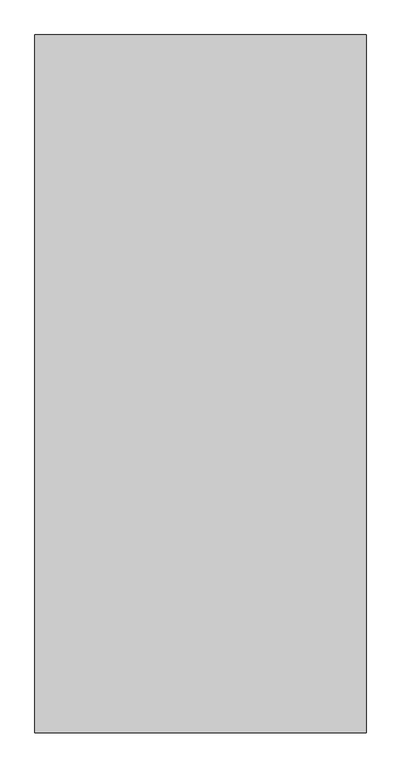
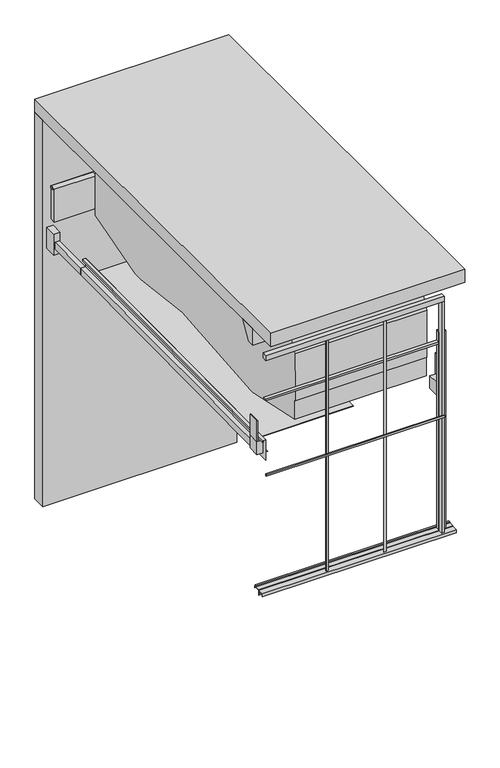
"""IFC4 building model written with IfcOpenShell, lengths in millimetres: proxy geometry, TrendVario_6300 : TrendVario_6300."""

from ifc_helpers import new_model, si_unit, frame, origin, origin_with_axes, place, context, project, spatial, polyline, circle_curve, outline, extrude, faceted_brep, source, transform, mapped, element, save
from ifc_brep_helpers import plane_surface, cylinder_surface, advanced_brep


def generic_models_e46402e7(model_context):
    return source(origin(), model_context, "Body", "SolidModel", [
        advanced_brep(
        [(650.0080034, 319.1090444, 2530.0), (650.0080034, 312.8152781, 3251.1941877), (650.0080034, 610.2970904, 3807.9723191), (650.0080034, 817.391149, 3809.7796016), (650.0080034, 818.414475, 3811.6948969), (650.0080034, 3720.0713452, 3837.0172728), (650.0080034, 5320.0488456, 3400.9650555), (650.0080034, 5320.0564576, 2327.578956), (650.0080034, 4315.7898833, 2049.0711861), (650.0080034, 4227.211946, 2040.6781608), (650.0080034, 3146.7425411, 2165.2190354), (650.0080034, 1426.7734714, 2016.5954437), (650.0080034, 1343.0441931, 2020.9835093), (650.0080034, 327.0638179, 2246.2209358), (650.0080034, 324.5873155, 2530.0), (2550.0080034, 610.2970903, 3807.9723191), (2550.0080034, 312.8152781, 3251.1941877), (2550.0080034, 319.1090444, 2530.0), (2550.0080034, 324.5873155, 2530.0), (2550.0080034, 327.0638178, 2246.2209358), (2550.0080034, 1343.0441931, 2020.9835093), (2550.0080034, 1426.7734714, 2016.5954437), (2550.0080034, 3146.7425411, 2165.2190354), (2550.0080034, 4227.211946, 2040.6781608), (2550.0080034, 4315.7898833, 2049.0711861), (2550.0080034, 5320.0564576, 2327.578956), (2550.0080034, 5320.0488456, 3400.9650555), (2550.0080034, 3720.0713452, 3837.0172728), (2550.0080034, 818.414475, 3811.6948969), (2550.0080034, 817.391149, 3809.7796016)],
        [
            (0, 1),
            (1, 2),
            (2, 3),
            (3, 4),
            (4, 5),
            (5, 6),
            (6, 7),
            (7, 8),
            (8, 9, circle_curve(frame((650.0080034, 4247.9113358, 2293.8333213), z_axis=(-1.0, 6.846874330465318e-12, 0.0), x_axis=(6.846340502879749e-12, 0.9999619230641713, 0.008726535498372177)), 254.0)),
            (9, 10),
            (10, 11),
            (11, 12, circle_curve(frame((650.0080034, 1398.0198551, 2268.9626951), z_axis=(-1.0, 6.846874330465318e-12, 0.0), x_axis=(6.846340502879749e-12, 0.9999619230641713, 0.008726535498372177)), 254.0)),
            (12, 13),
            (13, 14),
            (14, 0),
            (15, 16),
            (16, 17),
            (17, 18),
            (18, 19),
            (19, 20),
            (20, 21, circle_curve(frame((2550.0080034, 1398.0198551, 2268.9626951), z_axis=(1.0, -6.846874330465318e-12, 0.0), x_axis=(6.846340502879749e-12, 0.9999619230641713, 0.008726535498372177)), 254.0)),
            (21, 22),
            (22, 23),
            (23, 24, circle_curve(frame((2550.0080034, 4247.9113358, 2293.8333213), z_axis=(1.0, -6.846874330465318e-12, 0.0), x_axis=(6.846340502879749e-12, 0.9999619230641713, 0.008726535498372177)), 254.0)),
            (24, 25),
            (25, 26),
            (26, 27),
            (27, 28),
            (28, 29),
            (29, 15),
            (2, 15),
            (29, 3),
            (1, 16),
            (17, 0),
            (14, 18),
            (4, 28),
            (27, 5),
            (26, 6),
            (25, 7),
            (24, 8),
            (23, 9),
            (22, 10),
            (21, 11),
            (20, 12),
            (19, 13),
        ],
        [
            plane_surface(frame((650.0080034, 428.8717402, 3900.0), z_axis=(-1.0, 6.846035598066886e-12, 0.0), x_axis=(0.0, 0.0, 1.0))),
            plane_surface(frame((2550.0080034, 428.8717402, 3900.0), z_axis=(1.0, -6.846035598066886e-12, 0.0), x_axis=(0.0, 0.0, 1.0))),
            plane_surface(frame((650.0080034, 610.2970904, 3807.9723191), z_axis=(0.0, -0.008726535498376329, 0.9999619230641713), x_axis=(1.0, -6.845999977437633e-12, 0.0))),
            plane_surface(frame((650.0080034, 312.8152781, 3251.1941877), z_axis=(-6.038215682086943e-12, -0.8820017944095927, 0.4712460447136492), x_axis=(1.0, -6.846035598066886e-12, 0.0))),
            plane_surface(frame((650.0080034, 4789.9238543, 2530.0), z_axis=(0.0, 0.0, -1.0), x_axis=(1.0, -6.845999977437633e-12, 0.0))),
            plane_surface(frame((650.0080034, 319.1090444, 2530.0), z_axis=(-6.845774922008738e-12, -0.9999619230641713, -0.008726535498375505), x_axis=(1.0, -6.846035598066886e-12, 0.0))),
            plane_surface(frame((650.0080034, 818.414475, 3811.6948969), z_axis=(0.0, -0.008726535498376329, 0.9999619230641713), x_axis=(1.0, -6.846142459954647e-12, 0.0))),
            plane_surface(frame((650.0080034, 3720.0713452, 3837.0172728), z_axis=(1.8001286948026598e-12, 0.2629460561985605, 0.9648105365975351), x_axis=(1.0, -6.845999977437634e-12, 0.0))),
            plane_surface(frame((650.0080034, 520.9024424, 3254.860204), z_axis=(-6.038309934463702e-12, -0.8820017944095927, 0.4712460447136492), x_axis=(1.0, -6.846142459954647e-12, 0.0))),
            plane_surface(frame((650.0080034, 5320.0488456, 3400.9650555), z_axis=(6.845999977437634e-12, 1.0, 0.0), x_axis=(1.0, -6.845999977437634e-12, 0.0))),
            plane_surface(frame((2550.0080034, 4315.7898833, 2049.0711861), z_axis=(1.7715731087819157e-12, 0.26723837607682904, -0.963630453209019), x_axis=(-1.0, 6.8459999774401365e-12, 0.0))),
            cylinder_surface(frame((2550.0080034, 4247.9113358, 2293.8333213), z_axis=(1.0, -6.846874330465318e-12, 0.0), x_axis=(6.846340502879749e-12, 0.9999619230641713, 0.008726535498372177)), 254.0),
            plane_surface(frame((2550.0080034, 3146.7425411, 2165.2190354), z_axis=(0.0, -0.11450735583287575, -0.9934224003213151), x_axis=(-1.0, 6.8459999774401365e-12, 0.0))),
            plane_surface(frame((2550.0080034, 1426.7734714, 2016.5954437), z_axis=(0.0, 0.08608980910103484, -0.9962873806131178), x_axis=(-1.0, 6.8459999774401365e-12, 0.0))),
            cylinder_surface(frame((2550.0080034, 1398.0198551, 2268.9626951), z_axis=(1.0, -6.846874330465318e-12, 0.0), x_axis=(6.846340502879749e-12, 0.9999619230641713, 0.008726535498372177)), 254.0),
            plane_surface(frame((2550.0080034, 327.0638178, 2246.2209358), z_axis=(-1.539891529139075e-12, -0.21643961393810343, -0.9762960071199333), x_axis=(-1.0, 6.845999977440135e-12, 0.0))),
            plane_surface(frame((2550.0080034, 320.9123456, 2951.1098351), z_axis=(-6.846259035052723e-12, -0.9999619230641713, -0.00872653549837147), x_axis=(-1.0, 6.8459999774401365e-12, 0.0))),
        ],
        [
            (0, [[1, 2, 3, 4, 5, 6, 7, 8, 9, 10, 11, 12, 13, 14, 15]]),
            (1, [[16, 17, 18, 19, 20, 21, 22, 23, 24, 25, 26, 27, 28, 29, 30]]),
            (2, [[31, -30, 32, -3]]),
            (3, [[-2, 33, -16, -31]]),
            (4, [[34, -15, 35, -18]]),
            (5, [[-1, -34, -17, -33]]),
            (6, [[-5, 36, -28, 37]]),
            (7, [[-6, -37, -27, 38]]),
            (8, [[-36, -4, -32, -29]]),
            (9, [[-7, -38, -26, 39]]),
            (10, [[-25, 40, -8, -39]]),
            (11, [[-24, 41, -9, -40]]),
            (12, [[-23, 42, -10, -41]]),
            (13, [[-22, 43, -11, -42]]),
            (14, [[-21, 44, -12, -43]]),
            (15, [[-20, 45, -13, -44]]),
            (16, [[-45, -19, -35, -14]]),
        ],
    ),
        extrude(outline(polyline([(1798.6666667, 35.0), (1768.6666667, 35.0), (1768.6666667, 44.0), (1798.6666667, 44.0), (1798.6666667, 35.0)])), origin_with_axes(), (0.0, 0.0, 1.0), 3526.0),
        extrude(outline(polyline([(964.3333333, 35.0), (934.3333333, 35.0), (934.3333333, 44.0), (964.3333333, 44.0), (964.3333333, 35.0)])), origin_with_axes(), (0.0, 0.0, 1.0), 3526.0),
        extrude(outline(polyline([(700.0, 5469.6007019), (700.0, 5384.6007019), (100.0, 5384.6007019), (100.0, 5469.6007019), (700.0, 5469.6007019)])), frame((0.0, 0.0, 2379.0), z_axis=(0.0, 0.0, 1.0), x_axis=(1.0, 0.0, 0.0)), (0.0, 0.0, 1.0), 500.0),
        extrude(outline(polyline([(250.0, 3650.0), (250.0, 3900.0), (500.0, 3900.0), (349.6363636, 3650.0), (250.0, 3650.0)])), frame((0.0, 0.0, 0.0), z_axis=(1.0, 0.0, 0.0), x_axis=(0.0, 1.0, 0.0)), (0.0, 0.0, 1.0), 2799.0),
        extrude(outline(polyline([(60.0, 32.0), (60.0, 100.0), (2640.0, 100.0), (2640.0, 32.0), (60.0, 32.0)])), frame((0.0, 0.0, 3526.0), z_axis=(0.0, 0.0, 1.0), x_axis=(1.0, 0.0, 0.0)), (0.0, 0.0, 1.0), 74.0),
        extrude(outline(polyline([(60.0, 20.0), (60.0, 34.0), (2640.0, 34.0), (2640.0, 20.0), (60.0, 20.0)])), frame((0.0, 0.0, 1763.0), z_axis=(0.0, 0.0, 1.0), x_axis=(1.0, 0.0, 0.0)), (0.0, 0.0, 1.0), 30.0),
        extrude(outline(polyline([(2640.0, 32.0), (2600.0, 32.0), (2600.0, 100.0), (2640.0, 100.0), (2640.0, 32.0)])), origin_with_axes(), (0.0, 0.0, 1.0), 3526.0),
        extrude(outline(polyline([(0.0, -19.0), (0.0, 0.0), (812.4784443, 0.0), (812.4784443, -19.0), (0.0, -19.0)])), frame((2682.0, 5410.1905194, 2550.9954553), z_axis=(0.0, -0.008726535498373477, 0.9999619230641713), x_axis=(0.0, -0.9999619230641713, -0.008726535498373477)), (0.0, 0.0, 1.0), 56.0),
        extrude(outline(polyline([(0.0, -59.9999949), (0.0, 0.0), (722.0421176, 0.0), (722.0421176, -59.9999949), (0.0, -59.9999949)])), frame((2610.9999948, 4601.8183039, 2076.9231152), z_axis=(0.0, -0.008726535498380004, 0.9999619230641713), x_axis=(0.0, 0.9999619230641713, 0.008726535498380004)), (0.0, 0.0, 1.0), 100.0),
        extrude(outline(polyline([(0.0, -60.0), (0.0, 0.0), (4430.0, 0.0), (4430.0, -60.0), (0.0, -60.0)])), frame((29.0, 171.9869847, 2038.264563), z_axis=(0.0, -0.008726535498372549, 0.9999619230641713), x_axis=(0.0, 0.9999619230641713, 0.008726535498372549)), (0.0, 0.0, 1.0), 100.0),
        extrude(outline(polyline([(0.0, -60.0), (0.0, 0.0), (685.0, 0.0), (685.0, -60.0), (0.0, -60.0)])), frame((29.0, 4601.8233732, 2076.9231595), z_axis=(0.0, -0.008726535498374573, 0.9999619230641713), x_axis=(0.0, 0.9999619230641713, 0.008726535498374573)), (0.0, 0.0, 1.0), 100.0),
        extrude(outline(polyline([(5412.0564576, 1991.9660839), (5242.0564576, 1990.4825163), (5242.0564576, 2314.0), (5412.0564576, 2314.0), (5412.0564576, 1991.9660839)])), frame((2603.0, 0.0, 0.0), z_axis=(1.0, 0.0, 0.0), x_axis=(0.0, 1.0, 0.0)), (0.0, 0.0, 1.0), 90.0),
        extrude(outline(polyline([(5242.5930875, 1990.4871994), (5242.5930875, 2314.0), (5412.5930875, 2314.0), (5412.5930875, 1991.970767), (5242.5930875, 1990.4871994)])), frame((7.0, 0.0, 0.0), z_axis=(1.0, 0.0, 0.0), x_axis=(0.0, 1.0, 0.0)), (0.0, 0.0, 1.0), 90.0),
        extrude(outline(polyline([(7.0, 160.0), (7.0, 330.0), (18.0, 330.0), (18.0, 160.0), (7.0, 160.0)])), frame((0.0, 0.0, 2229.0), z_axis=(0.0, 0.0, 1.0), x_axis=(1.0, 0.0, 0.0)), (0.0, 0.0, 1.0), 315.0),
        extrude(outline(polyline([(7.0, 160.0), (7.0, 330.0), (97.0, 330.0), (97.0, 160.0), (7.0, 160.0)])), frame((0.0, 0.0, 2029.0), z_axis=(0.0, 0.0, 1.0), x_axis=(1.0, 0.0, 0.0)), (0.0, 0.0, 1.0), 195.0),
        extrude(outline(polyline([(2693.0, 330.0), (2693.0, 160.0), (2682.0, 160.0), (2682.0, 330.0), (2693.0, 330.0)])), frame((0.0, 0.0, 2229.0), z_axis=(0.0, 0.0, 1.0), x_axis=(1.0, 0.0, 0.0)), (0.0, 0.0, 1.0), 315.0),
        extrude(outline(polyline([(2693.0, 330.0), (2693.0, 160.0), (2603.0, 160.0), (2603.0, 330.0), (2693.0, 330.0)])), frame((0.0, 0.0, 2029.0), z_axis=(0.0, 0.0, 1.0), x_axis=(1.0, 0.0, 0.0)), (0.0, 0.0, 1.0), 195.0),
        extrude(outline(polyline([(0.0, 2700.0), (3025.0, 2700.0), (3025.0, 2600.0), (8.0, 2600.0), (8.0, 2603.0), (0.0, 2603.0), (0.0, 2700.0)])), frame((0.0, 100.0, 0.0), z_axis=(0.0, 1.0, 0.0), x_axis=(0.0, 0.0, 1.0)), (0.0, 0.0, 1.0), 60.0),
        extrude(outline(polyline([(2603.0, 5472.5930875), (2603.0, 5419.5930875), (97.0, 5419.5930875), (97.0, 5472.5930875), (2603.0, 5472.5930875)])), frame((0.0, 0.0, 2854.0), z_axis=(0.0, 0.0, 1.0), x_axis=(1.0, 0.0, 0.0)), (0.0, 0.0, 1.0), 25.0),
        extrude(outline(polyline([(2603.0, 153.0), (2603.0, 100.0), (100.0, 100.0), (100.0, 153.0), (2603.0, 153.0)])), frame((0.0, 0.0, 2854.0), z_axis=(0.0, 0.0, 1.0), x_axis=(1.0, 0.0, 0.0)), (0.0, 0.0, 1.0), 25.0),
        extrude(outline(polyline([(0.0, 169.9031048), (0.0, 194.9031048), (2799.0, 194.9031048), (2799.0, 169.9031048), (0.0, 169.9031048)])), frame((0.0, 0.0, 7.5), z_axis=(0.0, 0.0, 1.0), x_axis=(1.0, 0.0, 0.0)), (0.0, 0.0, 1.0), 15.0),
        extrude(outline(polyline([(100.0, 0.0), (100.0, -73.0), (97.0, -73.0), (97.0, 7.0), (203.0, 7.0), (203.0, -23.0), (200.0, -23.0), (200.0, 0.0), (100.0, 0.0)])), frame((0.0, 0.0, 0.0), z_axis=(1.0, 0.0, 0.0), x_axis=(0.0, 1.0, 0.0)), (0.0, 0.0, 1.0), 2799.0),
        extrude(outline(polyline([(96.5, 0.0), (96.5, -48.0), (93.5, -48.0), (93.5, -3.0), (13.0, -3.0), (13.0, -48.0), (10.0, -48.0), (10.0, 0.0), (96.5, 0.0)])), frame((0.0, 0.0, 0.0), z_axis=(1.0, 0.0, 0.0), x_axis=(0.0, 1.0, 0.0)), (0.0, 0.0, 1.0), 2799.0),
        extrude(outline(polyline([(2799.0, 5499.9619265), (0.0, 5499.9619265), (0.0, 5699.992384), (2799.0, 5699.992384), (2799.0, 5499.9619265)])), frame((0.0, 0.0, -2000.0), z_axis=(0.0, 0.0, 1.0), x_axis=(1.0, 0.0, 0.0)), (0.0, 0.0, 1.0), 5900.0),
        faceted_brep([(100.0, 4599.8336906, 2304.9182049), (100.0, 4602.6000023, 1987.9302753), (149.0, 4602.6000023, 1987.9302753), (149.0, 4602.1898551, 2034.9284857), (189.0, 4602.1898551, 2034.9284857), (189.0, 4602.2160348, 2031.9285999), (152.0, 4602.2160348, 2031.9285999), (152.0, 4602.6261819, 1984.9303895), (97.0, 4602.6261819, 1984.9303895), (97.0, 4599.8598702, 2301.9183191), (60.0, 4599.8598702, 2301.9183191), (60.0, 4600.0954866, 2274.9193472), (57.0, 4600.0954866, 2274.9193472), (57.0, 4599.8336906, 2304.9182049), (100.0, 100.0, 1945.6365661), (100.0, 97.2075086, 2265.6243815), (57.0, 97.2075086, 2265.6243815), (57.0, 97.4693047, 2235.6255238), (60.0, 97.4693047, 2235.6255238), (60.0, 97.2336882, 2262.6244957), (97.0, 97.2336882, 2262.6244957), (97.0, 100.0, 1945.6365661), (100.0, 199.9961923, 1946.5092197), (100.0, 199.9700127, 1949.5091054), (149.0, 199.9700127, 1949.5091054), (149.0, 199.5598655, 1996.5073158), (189.0, 199.5598655, 1996.5073158), (189.0, 199.5860451, 1993.50743), (152.0, 199.5860451, 1993.50743), (152.0, 199.9961923, 1946.5092197)], [[[0, 1, 2, 3, 4, 5, 6, 7, 8, 9, 10, 11, 12, 13]], [[14, 15, 16, 17, 18, 19, 20, 21]], [[1, 0, 15, 14, 22, 23]], [[2, 1, 23, 24]], [[3, 2, 24, 25]], [[4, 3, 25, 26]], [[5, 4, 26, 27]], [[6, 5, 27, 28]], [[7, 6, 28, 29]], [[8, 7, 29, 22, 14, 21]], [[9, 8, 21, 20]], [[10, 9, 20, 19]], [[11, 10, 19, 18]], [[12, 11, 18, 17]], [[13, 12, 17, 16]], [[0, 13, 16, 15]], [[23, 22, 29, 28, 27, 26, 25, 24]]]),
        extrude(outline(polyline([(2799.0, -200.0), (0.0, -200.0), (0.0, 5700.5930875), (2799.0, 5700.5930875), (2799.0, -200.0)])), frame((0.0, 0.0, 3900.0), z_axis=(0.0, 0.0, 1.0), x_axis=(1.0, 0.0, 0.0)), (0.0, 0.0, 1.0), 200.0),
        extrude(outline(polyline([(319.9719044, 0.0), (2.9719045, 0.0), (2.9719045, -49.0), (49.9719044, -49.0), (49.9719044, -89.0), (46.9719044, -89.0), (46.9719044, -52.0), (-0.0280956, -52.0), (-0.0280956, 3.0), (316.9719044, 3.0), (316.9719044, 40.0), (289.9719044, 40.0), (289.9719044, 43.0), (319.9719044, 43.0), (319.9719044, 0.0)])), frame((2600.0, 4602.6209, 1984.9303434), z_axis=(0.0, 0.9999619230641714, 0.008726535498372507), x_axis=(0.0, -0.008726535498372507, 0.9999619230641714)), (0.0, 0.0, 1.0), 870.0052822),
        extrude(outline(polyline([(100.4126792, 0.0), (100.4126792, -867.6410135), (-899.5873208, -867.6410135), (-899.5873208, 0.0), (100.4126792, 0.0)])), frame((2499.5873208, 5469.3904809, 2042.4927036), z_axis=(0.0, -0.008726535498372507, 0.9999619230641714), x_axis=(1.0, 0.0, 0.0)), (0.0, 0.0, 1.0), 8.0),
        extrude(outline(polyline([(5471.6724901, 2094.5183257), (5472.0564576, 2050.5200011), (5469.0565719, 2050.4938215), (5468.6987839, 2091.4922604), (5236.7076178, 2089.4677041), (5237.0654057, 2048.4692653), (5234.0655199, 2048.4430857), (5233.6815524, 2092.4414103), (5471.6724901, 2094.5183257)])), frame((1600.0, 0.0, 0.0), z_axis=(1.0, 0.0, 0.0), x_axis=(0.0, 1.0, 0.0)), (0.0, 0.0, 1.0), 1000.0),
        extrude(outline(polyline([(2038.9337722, 0.0), (2038.9337722, -1500.0), (-2056.8816536, -1500.0), (-2056.8816536, 0.0), (2038.9337722, 0.0)])), frame((1600.0, 2545.3865539, 2016.9753079), z_axis=(0.0, -0.008726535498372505, 0.9999619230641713), x_axis=(0.0, -0.9999619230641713, -0.008726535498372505)), (0.0, 0.0, 1.0), 8.0),
    ])


if __name__ == "__main__":
    model = new_model("IFC4")
    model_context = context("Model", 3, world=origin())
    ifc_project = project(units=[si_unit("LENGTHUNIT", "METRE", prefix="MILLI")], contexts=[model_context])
    site = spatial("IfcSite", under=ifc_project)
    building = spatial("IfcBuilding", under=site)
    placement = place(None, origin())
    generic_models_shape = generic_models_e46402e7(model_context)
    element("IfcBuildingElementProxy", 1, Name="TrendVario_6300 : TrendVario_6300", ObjectType="TrendVario_6300 : TrendVario_6300", at=placement, inside=building, context=model_context, shape_type="MappedRepresentation", body=[
        mapped(generic_models_shape, transform((0.0, 0.0, 0.0), x_axis=(1.0, 0.0, 0.0), y_axis=(0.0, 1.0, 0.0), z_axis=(0.0, 0.0, 1.0))),
    ])
    save(model, "model.ifc")
